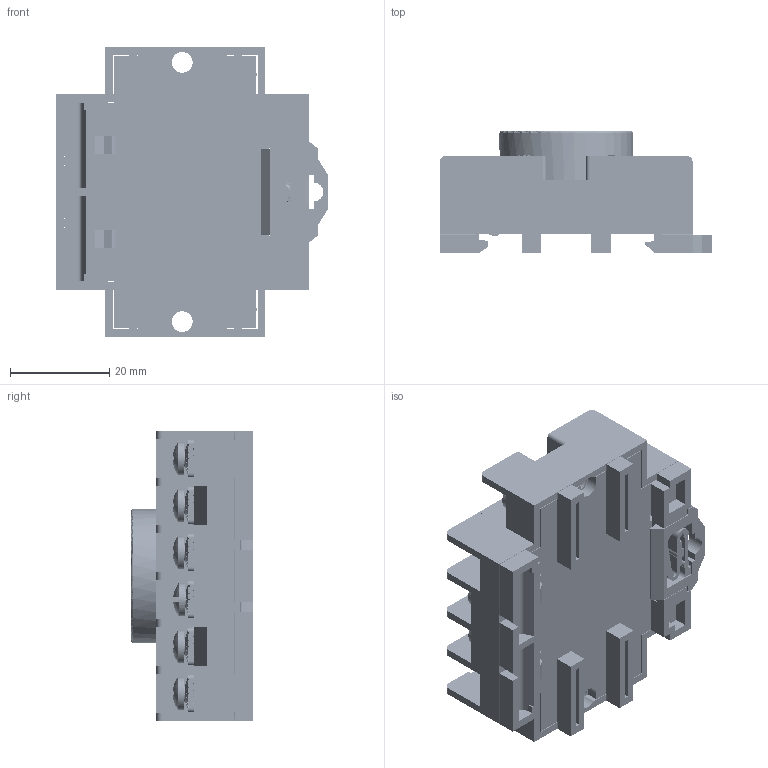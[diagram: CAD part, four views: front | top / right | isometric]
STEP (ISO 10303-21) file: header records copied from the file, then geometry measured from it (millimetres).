
FILE_DESCRIPTION (( 'STEP AP203' ), '1' );
FILE_NAME ('OT11-PC.STEP', '2012-06-08T14:46:31', ( 'Scott Brenner' ), ( '' ), 'SwSTEP 2.0', 'SolidWorks 2011', '' );
FILE_SCHEMA (( 'CONFIG_CONTROL_DESIGN' ));
Length unit declared in the file: inch
Products named in the file (7): 4-30-00016_OT-3020-B; 4-30-00016_OT-3020-A; 4-21-00013_MT-5025-N; OT11-PC; 4-32-00001_6-32 5\16 PC.; 4-26-00001_DRC2-3030; 4-22-00041_MB-5025-N
Assembly tree (25 placements, depth 2):
  OT11-PC
    4-22-00041_MB-5025-N
    4-32-00001_6-32 5\16 PC.  x11
    4-30-00016_OT-3020-A  x7
    4-26-00001_DRC2-3030
    4-30-00016_OT-3020-B  x4
    4-21-00013_MT-5025-N
Bounding box: 54.99 x 24.66 x 58.42 mm (x, y, z)
Volume: 33433.1 mm3; surface area: 38974.2 mm2
Topology: 36 solids, 36 shells, 5068 faces, 14409 edges, 9449 vertices
Faces by surface type: plane 3533, torus 551, cylinder 498, cone 253, bspline 211, sphere 22
Full cylindrical faces by diameter (mm): 2.667 x22, 3.409 x11, 3.505 x11, 3.531 x11, 4.191 x13, 4.521 x1, 4.572 x11, 6.68 x11, 7.976 x1, 27 x1
Entity records: 69734 total; most frequent: CARTESIAN_POINT 19570, ORIENTED_EDGE 10704, DIRECTION 9351, EDGE_CURVE 5352, VECTOR 4215, LINE 4215, VERTEX_POINT 3504, AXIS2_PLACEMENT_3D 2568
